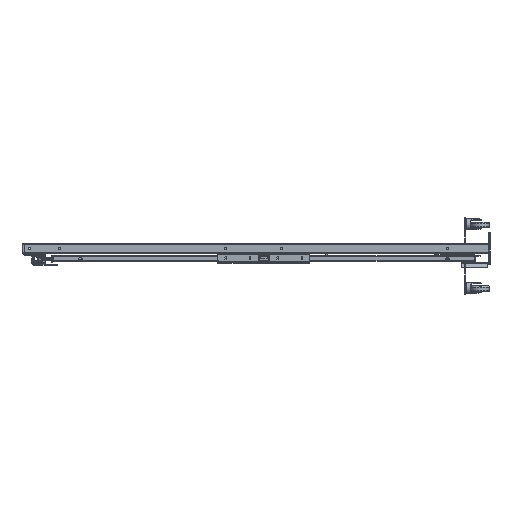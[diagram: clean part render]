
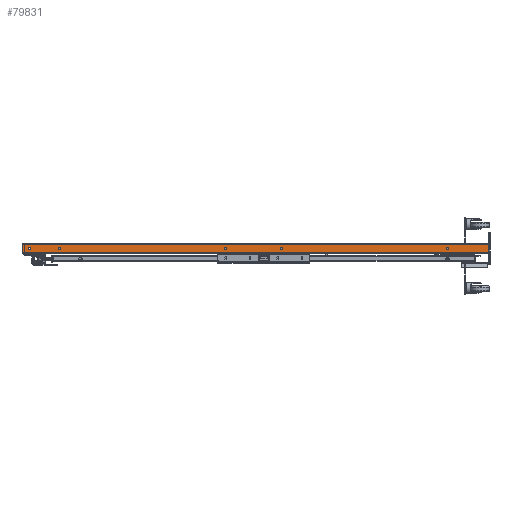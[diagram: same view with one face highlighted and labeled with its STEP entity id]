
A CAD part, left-side view. The second image highlights one B-rep face of the part: STEP entity #79831.
In plain terms, the highlighted planar face has unit normal (-1, 0, 0) as drawn and (0, -1, 0) by its records, which use the part's own axes.
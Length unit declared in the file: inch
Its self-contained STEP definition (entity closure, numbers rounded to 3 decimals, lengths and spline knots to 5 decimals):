
#1330 = AXIS2_PLACEMENT_3D ( 'NONE', #84440, #71729, #78712 ) ;
#2602 = CIRCLE ( 'NONE', #6808, 0.25 ) ;
#2864 = DIRECTION ( 'NONE',  ( 0., 1., 0. ) ) ;
#5223 = CARTESIAN_POINT ( 'NONE',  ( 0., -1., 5.5 ) ) ;
#6808 = AXIS2_PLACEMENT_3D ( 'NONE', #70127, #57078, #50534 ) ;
#7105 = ORIENTED_EDGE ( 'NONE', *, *, #19188, .F. ) ;
#7390 = CIRCLE ( 'NONE', #50675, 0.25 ) ;
#8527 = LINE ( 'NONE', #62670, #28723 ) ;
#9400 = DIRECTION ( 'NONE',  ( 1., 0., 0. ) ) ;
#10412 = CARTESIAN_POINT ( 'NONE',  ( 0.8506, -1., 50.5 ) ) ;
#11756 = CARTESIAN_POINT ( 'NONE',  ( 0., -1., 41.5 ) ) ;
#12485 = EDGE_CURVE ( 'NONE', #48413, #48137, #47059, .T. ) ;
#13497 = EDGE_CURVE ( 'NONE', #64619, #64619, #72096, .T. ) ;
#14326 = EDGE_CURVE ( 'NONE', #17911, #17911, #2602, .T. ) ;
#15673 = CARTESIAN_POINT ( 'NONE',  ( 0., -1., 41.75 ) ) ;
#16401 = FACE_BOUND ( 'NONE', #20216, .T. ) ;
#16590 = EDGE_LOOP ( 'NONE', ( #57195 ) ) ;
#16832 = PLANE ( 'NONE',  #54221 ) ;
#17911 = VERTEX_POINT ( 'NONE', #18339 ) ;
#18339 = CARTESIAN_POINT ( 'NONE',  ( 0., -1., -42.25 ) ) ;
#18726 = VECTOR ( 'NONE', #23938, 39.37008 ) ;
#19188 = EDGE_CURVE ( 'NONE', #45930, #27975, #8527, .T. ) ;
#19534 = CARTESIAN_POINT ( 'NONE',  ( -0.8506, -1., -50.5 ) ) ;
#20216 = EDGE_LOOP ( 'NONE', ( #34827 ) ) ;
#22947 = FACE_BOUND ( 'NONE', #34910, .T. ) ;
#23389 = FACE_BOUND ( 'NONE', #46166, .T. ) ;
#23469 = DIRECTION ( 'NONE',  ( 0., 0., 1. ) ) ;
#23609 = CARTESIAN_POINT ( 'NONE',  ( 0., -1., 5.75 ) ) ;
#23938 = DIRECTION ( 'NONE',  ( 0., 0., -1. ) ) ;
#25320 = DIRECTION ( 'NONE',  ( 0., 0., 1. ) ) ;
#26799 = EDGE_CURVE ( 'NONE', #47615, #47615, #42513, .T. ) ;
#27858 = CIRCLE ( 'NONE', #1330, 0.25 ) ;
#27975 = VERTEX_POINT ( 'NONE', #29950 ) ;
#28011 = CARTESIAN_POINT ( 'NONE',  ( 0.8506, -1., -50.5 ) ) ;
#28723 = VECTOR ( 'NONE', #9400, 39.37008 ) ;
#28921 = EDGE_CURVE ( 'NONE', #45930, #48413, #51047, .T. ) ;
#29950 = CARTESIAN_POINT ( 'NONE',  ( 0.8506, -1., 50.5 ) ) ;
#31315 = AXIS2_PLACEMENT_3D ( 'NONE', #11756, #38401, #84675 ) ;
#31416 = CARTESIAN_POINT ( 'NONE',  ( -0.8506, -1., -50.5 ) ) ;
#31874 = EDGE_CURVE ( 'NONE', #27975, #48137, #44479, .T. ) ;
#32112 = VERTEX_POINT ( 'NONE', #72240 ) ;
#34827 = ORIENTED_EDGE ( 'NONE', *, *, #60594, .F. ) ;
#34910 = EDGE_LOOP ( 'NONE', ( #78482 ) ) ;
#36503 = DIRECTION ( 'NONE',  ( 0., 0., 1. ) ) ;
#37653 = VECTOR ( 'NONE', #79343, 39.37008 ) ;
#38401 = DIRECTION ( 'NONE',  ( 0., -1., 0. ) ) ;
#38485 = EDGE_LOOP ( 'NONE', ( #41006, #70280, #7105, #52845 ) ) ;
#41006 = ORIENTED_EDGE ( 'NONE', *, *, #12485, .T. ) ;
#42513 = CIRCLE ( 'NONE', #31315, 0.25 ) ;
#43142 = DIRECTION ( 'NONE',  ( 0., -1., 0. ) ) ;
#43452 = ORIENTED_EDGE ( 'NONE', *, *, #14326, .F. ) ;
#43485 = CARTESIAN_POINT ( 'NONE',  ( -0.8506, -1., 50.5 ) ) ;
#44441 = CARTESIAN_POINT ( 'NONE',  ( 0., -1., -6.5 ) ) ;
#44479 = LINE ( 'NONE', #10412, #18726 ) ;
#45930 = VERTEX_POINT ( 'NONE', #72283 ) ;
#46166 = EDGE_LOOP ( 'NONE', ( #43452 ) ) ;
#47059 = LINE ( 'NONE', #19534, #50977 ) ;
#47615 = VERTEX_POINT ( 'NONE', #15673 ) ;
#48137 = VERTEX_POINT ( 'NONE', #28011 ) ;
#48413 = VERTEX_POINT ( 'NONE', #31416 ) ;
#49844 = AXIS2_PLACEMENT_3D ( 'NONE', #5223, #78558, #25320 ) ;
#50534 = DIRECTION ( 'NONE',  ( 0., 0., 1. ) ) ;
#50675 = AXIS2_PLACEMENT_3D ( 'NONE', #44441, #43142, #23469 ) ;
#50977 = VECTOR ( 'NONE', #59711, 39.37008 ) ;
#51047 = LINE ( 'NONE', #65405, #37653 ) ;
#52845 = ORIENTED_EDGE ( 'NONE', *, *, #28921, .T. ) ;
#54221 = AXIS2_PLACEMENT_3D ( 'NONE', #43485, #2864, #36503 ) ;
#56172 = FACE_BOUND ( 'NONE', #16590, .T. ) ;
#57078 = DIRECTION ( 'NONE',  ( 0., -1., 0. ) ) ;
#57195 = ORIENTED_EDGE ( 'NONE', *, *, #13497, .F. ) ;
#58913 = EDGE_LOOP ( 'NONE', ( #84979 ) ) ;
#59711 = DIRECTION ( 'NONE',  ( 1., 0., 0. ) ) ;
#60594 = EDGE_CURVE ( 'NONE', #32112, #32112, #7390, .T. ) ;
#61218 = VERTEX_POINT ( 'NONE', #68181 ) ;
#62670 = CARTESIAN_POINT ( 'NONE',  ( -0.8506, -1., 50.5 ) ) ;
#64619 = VERTEX_POINT ( 'NONE', #23609 ) ;
#65405 = CARTESIAN_POINT ( 'NONE',  ( -0.8506, -1., 50.5 ) ) ;
#68181 = CARTESIAN_POINT ( 'NONE',  ( 0., -1., -48.75 ) ) ;
#70127 = CARTESIAN_POINT ( 'NONE',  ( 0., -1., -42.5 ) ) ;
#70280 = ORIENTED_EDGE ( 'NONE', *, *, #31874, .F. ) ;
#71729 = DIRECTION ( 'NONE',  ( 0., -1., 0. ) ) ;
#72096 = CIRCLE ( 'NONE', #49844, 0.25 ) ;
#72240 = CARTESIAN_POINT ( 'NONE',  ( 0., -1., -6.25 ) ) ;
#72283 = CARTESIAN_POINT ( 'NONE',  ( -0.8506, -1., 50.5 ) ) ;
#75343 = FACE_BOUND ( 'NONE', #58913, .T. ) ;
#76619 = FACE_OUTER_BOUND ( 'NONE', #38485, .T. ) ;
#78482 = ORIENTED_EDGE ( 'NONE', *, *, #26799, .F. ) ;
#78558 = DIRECTION ( 'NONE',  ( 0., -1., 0. ) ) ;
#78712 = DIRECTION ( 'NONE',  ( 0., 0., 1. ) ) ;
#79343 = DIRECTION ( 'NONE',  ( 0., 0., -1. ) ) ;
#79831 = ADVANCED_FACE ( 'NONE', ( #75343, #22947, #56172, #16401, #23389, #76619 ), #16832, .F. ) ;
#84398 = EDGE_CURVE ( 'NONE', #61218, #61218, #27858, .T. ) ;
#84440 = CARTESIAN_POINT ( 'NONE',  ( 0., -1., -49. ) ) ;
#84675 = DIRECTION ( 'NONE',  ( 0., 0., 1. ) ) ;
#84979 = ORIENTED_EDGE ( 'NONE', *, *, #84398, .F. ) ;
